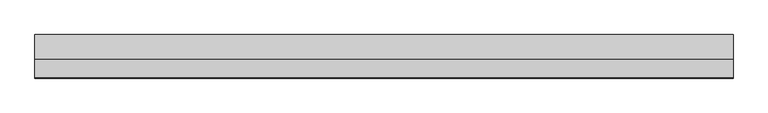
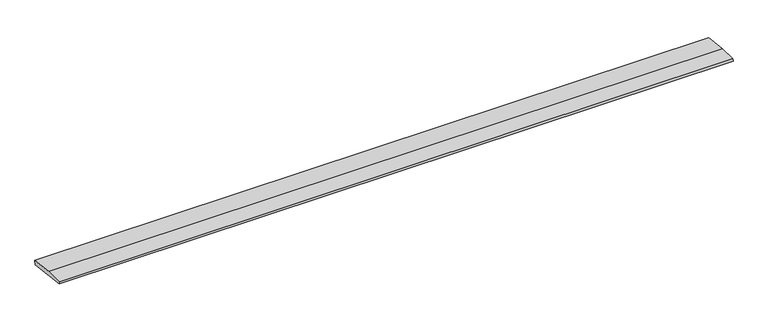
"""IFC4 building model written with IfcOpenShell, lengths in millimetres: beam geometry, weatherboad : weatherboad."""

from ifc_helpers import new_model, si_unit, frame, origin, place, context, project, spatial, polyline, outline, extrude, source, transform, mapped, element, save


def beam_5f6dbec4(model_context):
    return source(origin(), model_context, "Body", "SweptSolid", [
        extrude(outline(polyline([(0.0, -9.143159), (1.1226388, 0.0), (79.0749747, 0.0), (180.9387048, -12.5072934), (178.6231873, -31.3656703), (0.0, -9.143159)])), frame((-1447.1058127, 0.0, 0.0), z_axis=(1.0, 0.0, 0.0), x_axis=(0.0, 1.0, 0.0)), (0.0, 0.0, 1.0), 2894.2116254),
    ])


if __name__ == "__main__":
    model = new_model("IFC4")
    model_context = context("Model", 3, world=origin())
    ifc_project = project(units=[si_unit("LENGTHUNIT", "METRE", prefix="MILLI")], contexts=[model_context])
    site = spatial("IfcSite", under=ifc_project)
    building = spatial("IfcBuilding", under=site)
    placement = place(None, origin())
    beam_shape = beam_5f6dbec4(model_context)
    element("IfcBeam", 1, ObjectType="weatherboad : weatherboad", at=placement, inside=building, context=model_context, shape_type="MappedRepresentation", body=[
        mapped(beam_shape, transform((0.0, 0.0, 0.0), x_axis=(1.0, 0.0, 0.0), y_axis=(0.0, 1.0, 0.0), z_axis=(0.0, 0.0, 1.0))),
    ])
    save(model, "model.ifc")
